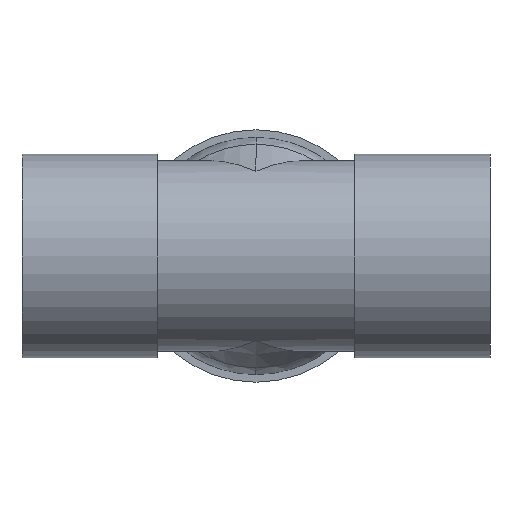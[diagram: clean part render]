
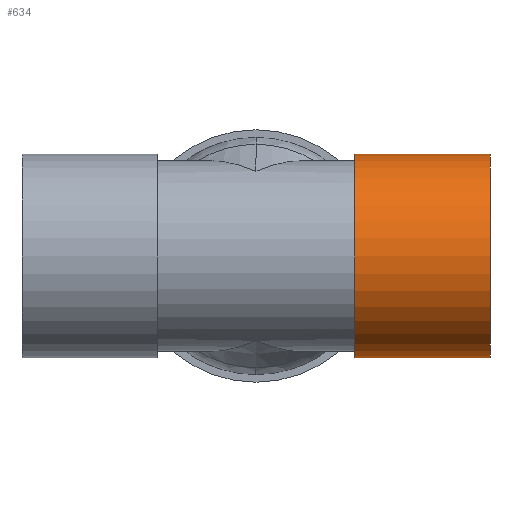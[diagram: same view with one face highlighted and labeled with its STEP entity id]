
A CAD part, front view. The second image highlights one B-rep face of the part: STEP entity #634.
In plain terms, the highlighted cylindrical face has radius 16.5 mm (diameter 33 mm), a partial arc.
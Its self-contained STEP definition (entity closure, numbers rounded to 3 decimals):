
#450 = VERTEX_POINT ( 'NONE', #2923 ) ;
#634 = ADVANCED_FACE ( 'NONE', ( #3483 ), #3482, .T. ) ;
#635 = EDGE_LOOP ( 'NONE', ( #636, #2607, #2539, #2540 ) ) ;
#636 = ORIENTED_EDGE ( 'NONE', *, *, #654, .F. ) ;
#640 = VERTEX_POINT ( 'NONE', #3481 ) ;
#643 = EDGE_CURVE ( 'NONE', #655, #656, #3476, .T. ) ;
#654 = EDGE_CURVE ( 'NONE', #640, #655, #3454, .T. ) ;
#655 = VERTEX_POINT ( 'NONE', #3509 ) ;
#656 = VERTEX_POINT ( 'NONE', #3508 ) ;
#2539 = ORIENTED_EDGE ( 'NONE', *, *, #2643, .T. ) ;
#2540 = ORIENTED_EDGE ( 'NONE', *, *, #643, .F. ) ;
#2607 = ORIENTED_EDGE ( 'NONE', *, *, #2608, .T. ) ;
#2608 = EDGE_CURVE ( 'NONE', #640, #450, #3643, .T. ) ;
#2643 = EDGE_CURVE ( 'NONE', #450, #656, #3690, .T. ) ;
#2754 = DIRECTION ( 'NONE',  ( 1., 0., 0. ) ) ;
#2755 = VECTOR ( 'NONE', #2754, 1000. ) ;
#2923 = CARTESIAN_POINT ( 'NONE',  ( 16., 0., -16.5 ) ) ;
#3453 = CARTESIAN_POINT ( 'NONE',  ( 0., 0., 16.5 ) ) ;
#3454 = LINE ( 'NONE', #3453, #2755 ) ;
#3472 = DIRECTION ( 'NONE',  ( 0., 0., -1. ) ) ;
#3473 = DIRECTION ( 'NONE',  ( 1., 0., 0. ) ) ;
#3474 = CARTESIAN_POINT ( 'NONE',  ( 38., 0., 0. ) ) ;
#3475 = AXIS2_PLACEMENT_3D ( 'NONE', #3474, #3473, #3472 ) ;
#3476 = CIRCLE ( 'NONE', #3475, 16.5 ) ;
#3477 = DIRECTION ( 'NONE',  ( 0., 0., -1. ) ) ;
#3478 = DIRECTION ( 'NONE',  ( 1., 0., 0. ) ) ;
#3479 = CARTESIAN_POINT ( 'NONE',  ( 0., 0., 0. ) ) ;
#3480 = AXIS2_PLACEMENT_3D ( 'NONE', #3479, #3478, #3477 ) ;
#3481 = CARTESIAN_POINT ( 'NONE',  ( 16., 0., 16.5 ) ) ;
#3482 = CYLINDRICAL_SURFACE ( 'NONE', #3480, 16.5 ) ;
#3483 = FACE_OUTER_BOUND ( 'NONE', #635, .T. ) ;
#3508 = CARTESIAN_POINT ( 'NONE',  ( 38., 0., -16.5 ) ) ;
#3509 = CARTESIAN_POINT ( 'NONE',  ( 38., 0., 16.5 ) ) ;
#3639 = DIRECTION ( 'NONE',  ( 0., 0., -1. ) ) ;
#3640 = DIRECTION ( 'NONE',  ( 1., 0., 0. ) ) ;
#3641 = CARTESIAN_POINT ( 'NONE',  ( 16., 0., 0. ) ) ;
#3642 = AXIS2_PLACEMENT_3D ( 'NONE', #3641, #3640, #3639 ) ;
#3643 = CIRCLE ( 'NONE', #3642, 16.5 ) ;
#3687 = DIRECTION ( 'NONE',  ( 1., 0., 0. ) ) ;
#3688 = VECTOR ( 'NONE', #3687, 1000. ) ;
#3689 = CARTESIAN_POINT ( 'NONE',  ( 0., 0., -16.5 ) ) ;
#3690 = LINE ( 'NONE', #3689, #3688 ) ;
